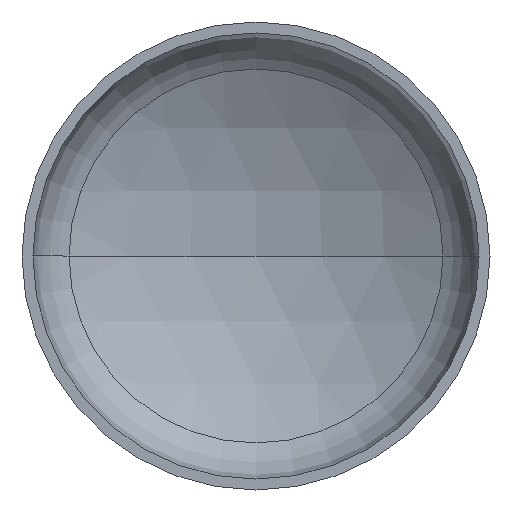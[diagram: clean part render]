
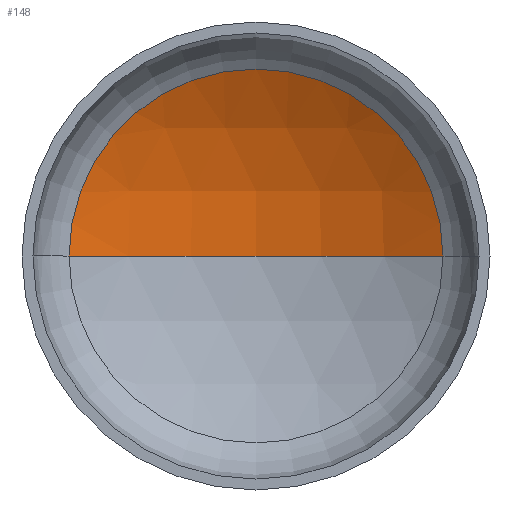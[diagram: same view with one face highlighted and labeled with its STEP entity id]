
A CAD part, front view. The second image highlights one B-rep face of the part: STEP entity #148.
In plain terms, the highlighted spherical face has radius 2880 mm.
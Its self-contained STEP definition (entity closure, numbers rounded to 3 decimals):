
#22 = EDGE_LOOP ( 'NONE', ( #145, #60, #41 ) ) ;
#41 = ORIENTED_EDGE ( 'NONE', *, *, #188, .T. ) ;
#60 = ORIENTED_EDGE ( 'NONE', *, *, #226, .T. ) ;
#80 = VERTEX_POINT ( 'NONE', #200 ) ;
#96 = DIRECTION ( 'NONE',  ( 1., 0., 0. ) ) ;
#108 = CARTESIAN_POINT ( 'NONE',  ( 1438.142, 580.851, 0. ) ) ;
#111 = VERTEX_POINT ( 'NONE', #351 ) ;
#121 = CIRCLE ( 'NONE', #385, 2880. ) ;
#137 = CARTESIAN_POINT ( 'NONE',  ( 0., 580.851, 0. ) ) ;
#145 = ORIENTED_EDGE ( 'NONE', *, *, #243, .F. ) ;
#146 = SPHERICAL_SURFACE ( 'NONE', #252, 2880. ) ;
#148 = ADVANCED_FACE ( 'NONE', ( #233 ), #146, .F. ) ;
#166 = DIRECTION ( 'NONE',  ( 0., 0., -1. ) ) ;
#168 = DIRECTION ( 'NONE',  ( -1., 0., 0. ) ) ;
#172 = CARTESIAN_POINT ( 'NONE',  ( 0., -1914.374, 0. ) ) ;
#188 = EDGE_CURVE ( 'NONE', #354, #111, #374, .T. ) ;
#200 = CARTESIAN_POINT ( 'NONE',  ( 0., 965.626, 0. ) ) ;
#221 = CIRCLE ( 'NONE', #355, 2880. ) ;
#226 = EDGE_CURVE ( 'NONE', #80, #354, #221, .T. ) ;
#229 = CARTESIAN_POINT ( 'NONE',  ( 0., -1914.374, 0. ) ) ;
#233 = FACE_OUTER_BOUND ( 'NONE', #22, .T. ) ;
#243 = EDGE_CURVE ( 'NONE', #80, #111, #121, .T. ) ;
#251 = DIRECTION ( 'NONE',  ( 1., 0., 0. ) ) ;
#252 = AXIS2_PLACEMENT_3D ( 'NONE', #400, #285, #284 ) ;
#254 = DIRECTION ( 'NONE',  ( 0., 0., 1. ) ) ;
#277 = AXIS2_PLACEMENT_3D ( 'NONE', #137, #295, #96 ) ;
#284 = DIRECTION ( 'NONE',  ( -1., 0., 0. ) ) ;
#285 = DIRECTION ( 'NONE',  ( 0., 0., -1. ) ) ;
#295 = DIRECTION ( 'NONE',  ( 0., -1., 0. ) ) ;
#351 = CARTESIAN_POINT ( 'NONE',  ( -1438.142, 580.851, 0. ) ) ;
#354 = VERTEX_POINT ( 'NONE', #108 ) ;
#355 = AXIS2_PLACEMENT_3D ( 'NONE', #172, #166, #168 ) ;
#374 = CIRCLE ( 'NONE', #277, 1438.142 ) ;
#385 = AXIS2_PLACEMENT_3D ( 'NONE', #229, #254, #251 ) ;
#400 = CARTESIAN_POINT ( 'NONE',  ( 0., -1914.374, 0. ) ) ;
